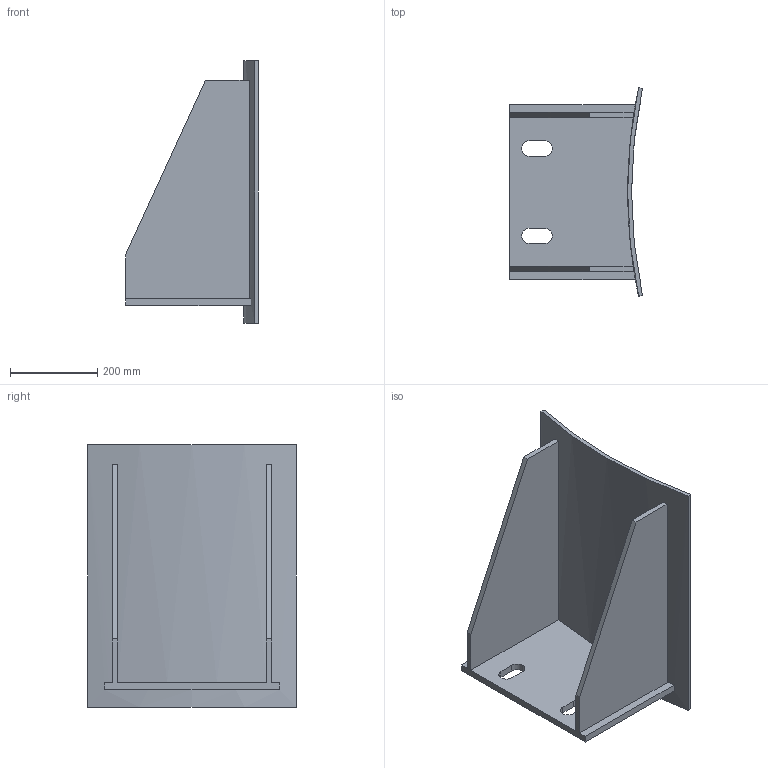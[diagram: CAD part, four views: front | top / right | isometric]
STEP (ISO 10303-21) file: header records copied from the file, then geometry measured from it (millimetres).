
FILE_DESCRIPTION(/* description */ (''),/* implementation_level */ '2;1');
FILE_NAME(/* name */ 'C:\Users\D\Documents\Inventor\HP\JPI\竪型容器用ラグサポート\軽荷重用ラグサポート Light-duty lug support\ld-lug-support-d2250.stp',/* time_stamp */ '2026-02-05T16:55:48+09:00',/* author */ ('D'),/* organization */ (''),/* preprocessor_version */ 'ST-DEVELOPER v18',/* originating_system */ 'Autodesk Inventor 2020',/* authorisation */ '');
FILE_SCHEMA (('AUTOMOTIVE_DESIGN { 1 0 10303 214 3 1 1 }'));
Length unit declared in the file: millimetre
Products named in the file (1): light-duty lug support
Bounding box: 303.91 x 476.48 x 600 mm (x, y, z)
Volume: 6792842.3 mm3; surface area: 1259831.8 mm2
Topology: 1 solids, 1 shells, 31 faces, 80 edges, 52 vertices
Faces by surface type: plane 25, cylinder 6
Entity records: 1001 total; most frequent: CARTESIAN_POINT 166, ORIENTED_EDGE 164, DIRECTION 162, EDGE_CURVE 82, LINE 66, VECTOR 66, VERTEX_POINT 52, AXIS2_PLACEMENT_3D 48
